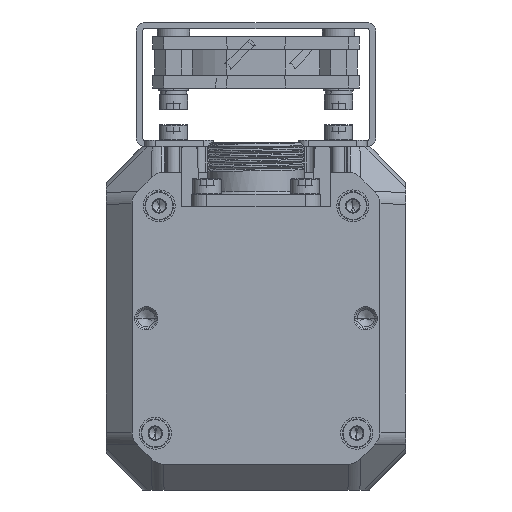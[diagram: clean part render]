
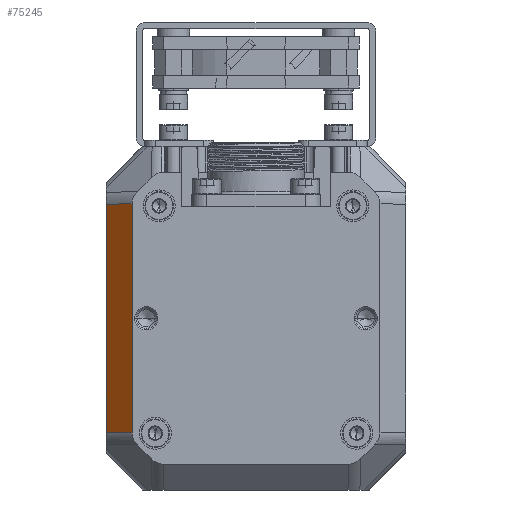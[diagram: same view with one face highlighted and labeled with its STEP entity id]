
A CAD part, front view. The second image highlights one B-rep face of the part: STEP entity #75245.
In plain terms, the highlighted planar face has unit normal (-0.707, -0.707, 0).
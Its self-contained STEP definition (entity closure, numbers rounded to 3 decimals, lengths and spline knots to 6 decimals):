
#14853=CARTESIAN_POINT('',(-0.024,-0.285,-0.055435));
#14861=DIRECTION('',(0.707,-0.707,-0.02));
#14862=VECTOR('',#14861,0.007072);
#14863=CARTESIAN_POINT('',(-0.029,-0.28,-0.055297));
#14864=LINE('',#14863,#14862);
#14865=DIRECTION('',(0.,0.,-1.));
#14866=VECTOR('',#14865,0.044094);
#14867=CARTESIAN_POINT('',(-0.029,-0.28,-0.011203));
#14868=LINE('',#14867,#14866);
#14869=DIRECTION('',(-0.707,0.707,-0.02));
#14870=VECTOR('',#14869,0.007072);
#14871=CARTESIAN_POINT('',(-0.024,-0.285,-0.011065));
#14872=LINE('',#14871,#14870);
#14873=DIRECTION('',(0.,0.,1.));
#14874=VECTOR('',#14873,0.044371);
#14875=CARTESIAN_POINT('',(-0.024,-0.285,-0.055435));
#14876=LINE('',#14875,#14874);
#14887=CARTESIAN_POINT('',(-0.029,-0.28,-0.011203));
#42021=VERTEX_POINT('',#14853);
#42022=CARTESIAN_POINT('',(-0.024,-0.285,-0.011065));
#42023=VERTEX_POINT('',#42022);
#42233=VERTEX_POINT('',#14887);
#42234=CARTESIAN_POINT('',(-0.029,-0.28,-0.055297));
#42235=VERTEX_POINT('',#42234);
#75232=CARTESIAN_POINT('',(-0.0265,-0.2825,-0.03325));
#75233=DIRECTION('',(-0.707,-0.707,0.));
#75234=DIRECTION('',(-0.707,0.707,0.));
#75235=AXIS2_PLACEMENT_3D('',#75232,#75233,#75234);
#75236=PLANE('',#75235);
#75237=ORIENTED_EDGE('',*,*,#75216,.F.);
#75238=ORIENTED_EDGE('',*,*,#54480,.F.);
#75240=ORIENTED_EDGE('',*,*,#75239,.F.);
#75242=ORIENTED_EDGE('',*,*,#75241,.F.);
#75243=EDGE_LOOP('',(#75237,#75238,#75240,#75242));
#75244=FACE_OUTER_BOUND('',#75243,.F.);
#54480=EDGE_CURVE('',#42233,#42235,#14868,.T.);
#75216=EDGE_CURVE('',#42235,#42021,#14864,.T.);
#75239=EDGE_CURVE('',#42023,#42233,#14872,.T.);
#75241=EDGE_CURVE('',#42021,#42023,#14876,.T.);
#75245=ADVANCED_FACE('',(#75244),#75236,.T.);
